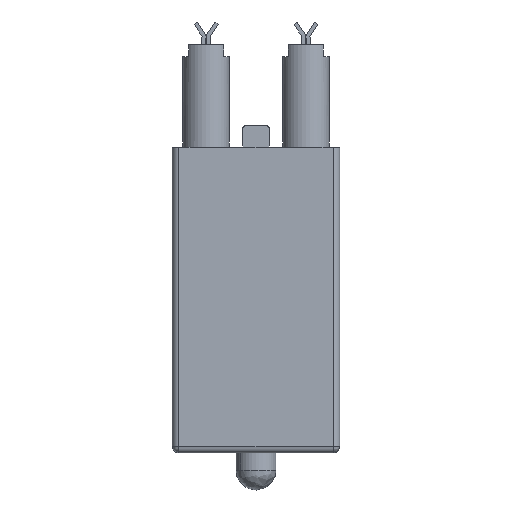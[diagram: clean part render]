
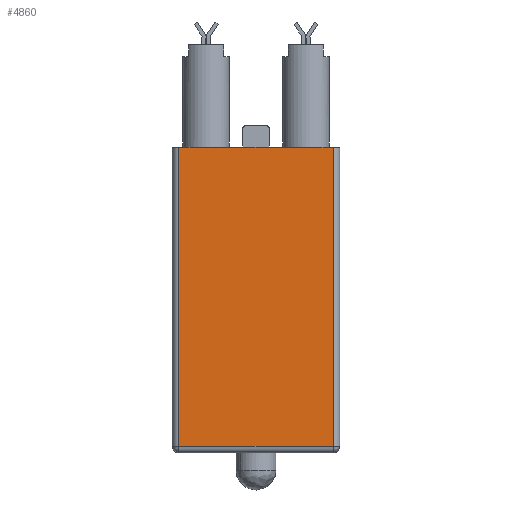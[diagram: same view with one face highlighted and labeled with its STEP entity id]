
A CAD part, front view. The second image highlights one B-rep face of the part: STEP entity #4860.
In plain terms, the highlighted planar face has unit normal (0, -1, 0).
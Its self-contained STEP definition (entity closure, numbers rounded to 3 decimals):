
#33 = DIRECTION ( 'NONE',  ( -1., 0., 0. ) ) ;
#408 = EDGE_LOOP ( 'NONE', ( #3238, #7262, #434, #2274, #2971, #4189 ) ) ;
#434 = ORIENTED_EDGE ( 'NONE', *, *, #1796, .F. ) ;
#620 = VERTEX_POINT ( 'NONE', #4916 ) ;
#623 = CARTESIAN_POINT ( 'NONE',  ( 5.8, -4.3, 23. ) ) ;
#846 = LINE ( 'NONE', #952, #885 ) ;
#885 = VECTOR ( 'NONE', #3116, 1000. ) ;
#952 = CARTESIAN_POINT ( 'NONE',  ( -5.8, -4.3, 23. ) ) ;
#956 = LINE ( 'NONE', #7891, #4396 ) ;
#1127 = LINE ( 'NONE', #7552, #1960 ) ;
#1649 = LINE ( 'NONE', #5007, #1776 ) ;
#1776 = VECTOR ( 'NONE', #33, 1000. ) ;
#1796 = EDGE_CURVE ( 'NONE', #5620, #7783, #956, .T. ) ;
#1957 = EDGE_CURVE ( 'NONE', #4430, #620, #6185, .T. ) ;
#1960 = VECTOR ( 'NONE', #7216, 1000. ) ;
#2252 = LINE ( 'NONE', #4395, #6104 ) ;
#2274 = ORIENTED_EDGE ( 'NONE', *, *, #6817, .F. ) ;
#2628 = CARTESIAN_POINT ( 'NONE',  ( 5.8, -4.3, 23. ) ) ;
#2971 = ORIENTED_EDGE ( 'NONE', *, *, #3193, .F. ) ;
#3021 = CARTESIAN_POINT ( 'NONE',  ( -1., -4.3, 23. ) ) ;
#3116 = DIRECTION ( 'NONE',  ( 0., 0., 1. ) ) ;
#3193 = EDGE_CURVE ( 'NONE', #8079, #6073, #846, .T. ) ;
#3238 = ORIENTED_EDGE ( 'NONE', *, *, #1957, .F. ) ;
#3402 = EDGE_CURVE ( 'NONE', #620, #8079, #1649, .T. ) ;
#3812 = DIRECTION ( 'NONE',  ( 0., 0., -1. ) ) ;
#4189 = ORIENTED_EDGE ( 'NONE', *, *, #3402, .F. ) ;
#4395 = CARTESIAN_POINT ( 'NONE',  ( -6.3, -4.3, 23. ) ) ;
#4396 = VECTOR ( 'NONE', #5733, 1000. ) ;
#4430 = VERTEX_POINT ( 'NONE', #623 ) ;
#4571 = AXIS2_PLACEMENT_3D ( 'NONE', #5165, #5229, #5243 ) ;
#4670 = CARTESIAN_POINT ( 'NONE',  ( 1., -4.3, 23. ) ) ;
#4860 = ADVANCED_FACE ( 'b?', ( #7113 ), #5212, .F. ) ;
#4902 = DIRECTION ( 'NONE',  ( 1., 0., 0. ) ) ;
#4916 = CARTESIAN_POINT ( 'NONE',  ( 5.8, -4.3, 0.5 ) ) ;
#5007 = CARTESIAN_POINT ( 'NONE',  ( -6.3, -4.3, 0.5 ) ) ;
#5165 = CARTESIAN_POINT ( 'NONE',  ( -6.3, -4.3, 23. ) ) ;
#5212 = PLANE ( 'NONE',  #4571 ) ;
#5229 = DIRECTION ( 'NONE',  ( 0., 1., 0. ) ) ;
#5243 = DIRECTION ( 'NONE',  ( 0., 0., 1. ) ) ;
#5620 = VERTEX_POINT ( 'NONE', #3021 ) ;
#5733 = DIRECTION ( 'NONE',  ( 1., 0., 0. ) ) ;
#6073 = VERTEX_POINT ( 'NONE', #6708 ) ;
#6104 = VECTOR ( 'NONE', #4902, 1000. ) ;
#6160 = EDGE_CURVE ( 'NONE', #7783, #4430, #1127, .T. ) ;
#6173 = VECTOR ( 'NONE', #3812, 1000. ) ;
#6185 = LINE ( 'NONE', #2628, #6173 ) ;
#6342 = CARTESIAN_POINT ( 'NONE',  ( -5.8, -4.3, 0.5 ) ) ;
#6708 = CARTESIAN_POINT ( 'NONE',  ( -5.8, -4.3, 23. ) ) ;
#6817 = EDGE_CURVE ( 'NONE', #6073, #5620, #2252, .T. ) ;
#7113 = FACE_OUTER_BOUND ( 'NONE', #408, .T. ) ;
#7216 = DIRECTION ( 'NONE',  ( 1., 0., 0. ) ) ;
#7262 = ORIENTED_EDGE ( 'NONE', *, *, #6160, .F. ) ;
#7552 = CARTESIAN_POINT ( 'NONE',  ( -6.3, -4.3, 23. ) ) ;
#7783 = VERTEX_POINT ( 'NONE', #4670 ) ;
#7891 = CARTESIAN_POINT ( 'NONE',  ( -6.3, -4.3, 23. ) ) ;
#8079 = VERTEX_POINT ( 'NONE', #6342 ) ;
